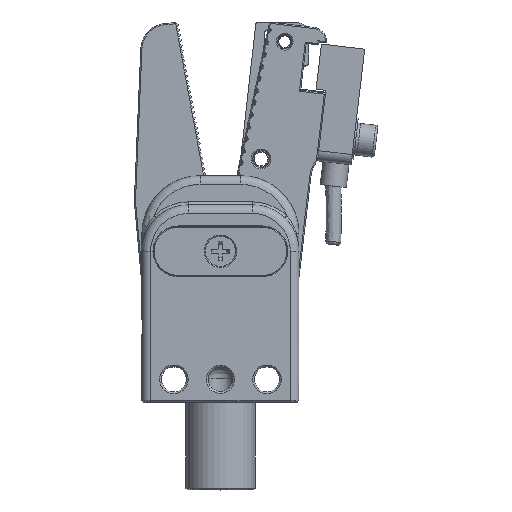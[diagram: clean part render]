
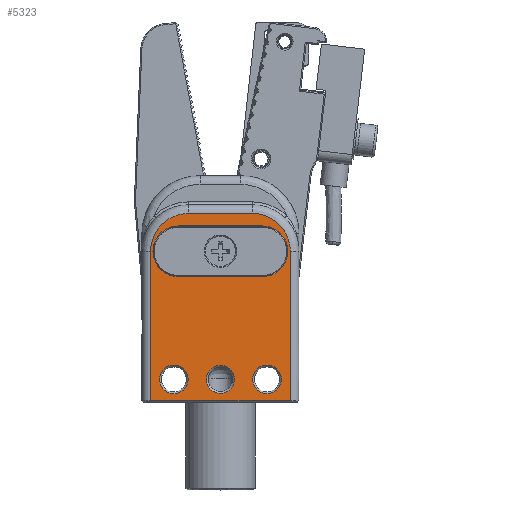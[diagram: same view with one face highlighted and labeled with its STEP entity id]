
A CAD part, top view. The second image highlights one B-rep face of the part: STEP entity #5323.
In plain terms, the highlighted planar face has unit normal (0, 0, 1).
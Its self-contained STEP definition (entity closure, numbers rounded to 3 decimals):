
#77=(
BOUNDED_CURVE()
B_SPLINE_CURVE(3,(#40495,#40496,#40497,#40498),.UNSPECIFIED.,.F.,.F.)
B_SPLINE_CURVE_WITH_KNOTS((4,4),(0.,1.),.UNSPECIFIED.)
CURVE()
GEOMETRIC_REPRESENTATION_ITEM()
RATIONAL_B_SPLINE_CURVE((1.,0.805,0.805,1.))
REPRESENTATION_ITEM('')
);
#78=(
BOUNDED_CURVE()
B_SPLINE_CURVE(3,(#40594,#40595,#40596,#40597),.UNSPECIFIED.,.F.,.F.)
B_SPLINE_CURVE_WITH_KNOTS((4,4),(0.,1.),.UNSPECIFIED.)
CURVE()
GEOMETRIC_REPRESENTATION_ITEM()
RATIONAL_B_SPLINE_CURVE((1.,0.805,0.805,1.))
REPRESENTATION_ITEM('')
);
#5323=ADVANCED_FACE('',(#7608,#7609,#7610,#7611,#7612),#6479,.F.);
#6479=PLANE('',#25625);
#7608=FACE_BOUND('',#8204,.T.);
#7609=FACE_BOUND('',#8205,.T.);
#7610=FACE_BOUND('',#8206,.T.);
#7611=FACE_BOUND('',#8207,.T.);
#7612=FACE_BOUND('',#8208,.T.);
#8204=EDGE_LOOP('',(#10947));
#8205=EDGE_LOOP('',(#10948));
#8206=EDGE_LOOP('',(#10949));
#8207=EDGE_LOOP('',(#10950,#10951,#10952,#10953,#10954,#10955));
#8208=EDGE_LOOP('',(#10956,#10957,#10958,#10959));
#9533=CIRCLE('',#25565,4.35);
#9534=CIRCLE('',#25568,4.35);
#9537=CIRCLE('',#25574,2.4);
#9561=CIRCLE('',#25623,2.45);
#9562=CIRCLE('',#25624,2.45);
#10947=ORIENTED_EDGE('',*,*,#18153,.T.);
#10948=ORIENTED_EDGE('',*,*,#18075,.F.);
#10949=ORIENTED_EDGE('',*,*,#18154,.T.);
#10950=ORIENTED_EDGE('',*,*,#18155,.F.);
#10951=ORIENTED_EDGE('',*,*,#18156,.F.);
#10952=ORIENTED_EDGE('',*,*,#18090,.F.);
#10953=ORIENTED_EDGE('',*,*,#18074,.F.);
#10954=ORIENTED_EDGE('',*,*,#18123,.F.);
#10955=ORIENTED_EDGE('',*,*,#18157,.F.);
#10956=ORIENTED_EDGE('',*,*,#18069,.F.);
#10957=ORIENTED_EDGE('',*,*,#18067,.F.);
#10958=ORIENTED_EDGE('',*,*,#18065,.F.);
#10959=ORIENTED_EDGE('',*,*,#18071,.F.);
#16089=VERTEX_POINT('',#40444);
#16090=VERTEX_POINT('',#40446);
#16091=VERTEX_POINT('',#40450);
#16092=VERTEX_POINT('',#40454);
#16093=VERTEX_POINT('',#40460);
#16094=VERTEX_POINT('',#40462);
#16095=VERTEX_POINT('',#40466);
#16102=VERTEX_POINT('',#40494);
#16127=VERTEX_POINT('',#40593);
#16144=VERTEX_POINT('',#40754);
#16145=VERTEX_POINT('',#40756);
#16146=VERTEX_POINT('',#40758);
#16147=VERTEX_POINT('',#40759);
#18065=EDGE_CURVE('',#16089,#16090,#9533,.T.);
#18067=EDGE_CURVE('',#16090,#16091,#20711,.T.);
#18069=EDGE_CURVE('',#16091,#16092,#9534,.T.);
#18071=EDGE_CURVE('',#16092,#16089,#20714,.T.);
#18074=EDGE_CURVE('',#16094,#16093,#20715,.T.);
#18075=EDGE_CURVE('',#16095,#16095,#9537,.T.);
#18090=EDGE_CURVE('',#16093,#16102,#77,.T.);
#18123=EDGE_CURVE('',#16127,#16094,#78,.T.);
#18153=EDGE_CURVE('',#16144,#16144,#9561,.T.);
#18154=EDGE_CURVE('',#16145,#16145,#9562,.T.);
#18155=EDGE_CURVE('',#16146,#16147,#20755,.T.);
#18156=EDGE_CURVE('',#16102,#16146,#20756,.T.);
#18157=EDGE_CURVE('',#16147,#16127,#20757,.T.);
#20711=LINE('',#40449,#23042);
#20714=LINE('',#40457,#23045);
#20715=LINE('',#40463,#23046);
#20755=LINE('',#40757,#23086);
#20756=LINE('',#40760,#23087);
#20757=LINE('',#40761,#23088);
#23042=VECTOR('',#27889,1.);
#23045=VECTOR('',#27898,1.);
#23046=VECTOR('',#27905,1.);
#23086=VECTOR('',#28053,1.);
#23087=VECTOR('',#28054,1.);
#23088=VECTOR('',#28055,1.);
#25565=AXIS2_PLACEMENT_3D('',#40445,#27884,#27885);
#25568=AXIS2_PLACEMENT_3D('',#40453,#27893,#27894);
#25574=AXIS2_PLACEMENT_3D('',#40465,#27908,#27909);
#25623=AXIS2_PLACEMENT_3D('',#40753,#28049,#28050);
#25624=AXIS2_PLACEMENT_3D('',#40755,#28051,#28052);
#25625=AXIS2_PLACEMENT_3D('',#40762,#28056,#28057);
#27884=DIRECTION('',(0.,0.,1.));
#27885=DIRECTION('',(1.,0.,0.));
#27889=DIRECTION('',(-1.,0.,0.));
#27893=DIRECTION('',(0.,0.,1.));
#27894=DIRECTION('',(1.,0.,0.));
#27898=DIRECTION('',(1.,0.,0.));
#27905=DIRECTION('',(1.,0.,0.));
#27908=DIRECTION('',(0.,0.,1.));
#27909=DIRECTION('',(1.,0.,0.));
#28049=DIRECTION('',(0.,0.,-1.));
#28050=DIRECTION('',(1.,0.,0.));
#28051=DIRECTION('',(0.,0.,-1.));
#28052=DIRECTION('',(1.,0.,0.));
#28053=DIRECTION('',(-1.,0.,0.));
#28054=DIRECTION('',(0.,-1.,0.));
#28055=DIRECTION('',(0.,1.,0.));
#28056=DIRECTION('',(0.,0.,-1.));
#28057=DIRECTION('',(-1.,0.,0.));
#40444=CARTESIAN_POINT('',(95.662,-2.292,82.4));
#40445=CARTESIAN_POINT('',(95.662,2.058,82.4));
#40446=CARTESIAN_POINT('',(95.662,6.408,82.4));
#40449=CARTESIAN_POINT('',(100.912,6.408,82.4));
#40450=CARTESIAN_POINT('',(81.162,6.408,82.4));
#40453=CARTESIAN_POINT('',(81.162,2.058,82.4));
#40454=CARTESIAN_POINT('',(81.162,-2.292,82.4));
#40457=CARTESIAN_POINT('',(100.912,-2.292,82.4));
#40460=CARTESIAN_POINT('',(93.912,8.558,82.4));
#40462=CARTESIAN_POINT('',(82.912,8.558,82.4));
#40463=CARTESIAN_POINT('',(100.912,8.558,82.4));
#40465=CARTESIAN_POINT('',(88.412,-19.942,82.4));
#40466=CARTESIAN_POINT('',(90.812,-19.942,82.4));
#40494=CARTESIAN_POINT('',(100.412,2.058,82.4));
#40495=CARTESIAN_POINT('',(93.912,8.558,82.4));
#40496=CARTESIAN_POINT('',(97.72,8.558,82.4));
#40497=CARTESIAN_POINT('',(100.412,5.866,82.4));
#40498=CARTESIAN_POINT('',(100.412,2.058,82.4));
#40593=CARTESIAN_POINT('',(76.412,2.058,82.4));
#40594=CARTESIAN_POINT('',(76.412,2.058,82.4));
#40595=CARTESIAN_POINT('',(76.412,5.866,82.4));
#40596=CARTESIAN_POINT('',(79.104,8.558,82.4));
#40597=CARTESIAN_POINT('',(82.912,8.558,82.4));
#40753=CARTESIAN_POINT('',(80.412,-19.942,82.4));
#40754=CARTESIAN_POINT('',(82.862,-19.942,82.4));
#40755=CARTESIAN_POINT('',(96.412,-19.942,82.4));
#40756=CARTESIAN_POINT('',(98.862,-19.942,82.4));
#40757=CARTESIAN_POINT('',(100.912,-23.642,82.4));
#40758=CARTESIAN_POINT('',(100.412,-23.642,82.4));
#40759=CARTESIAN_POINT('',(76.412,-23.642,82.4));
#40760=CARTESIAN_POINT('',(100.412,15.058,82.4));
#40761=CARTESIAN_POINT('',(76.412,-23.942,82.4));
#40762=CARTESIAN_POINT('',(100.912,-23.942,82.4));
